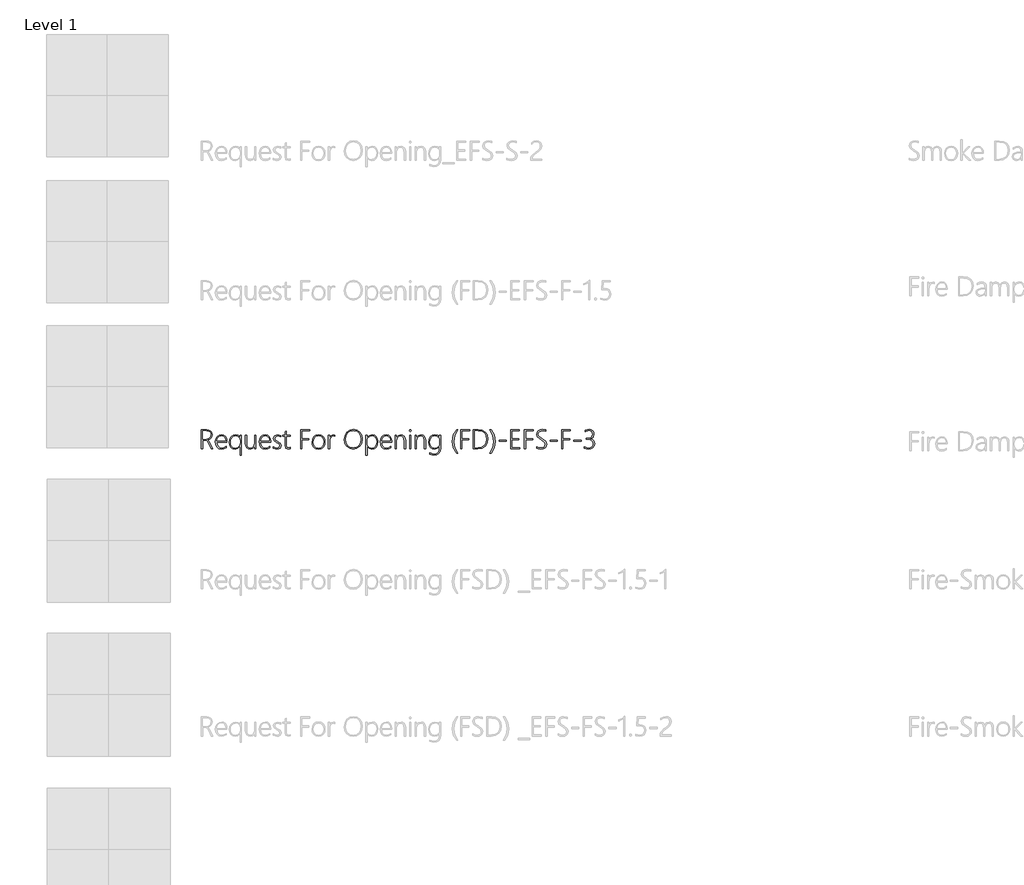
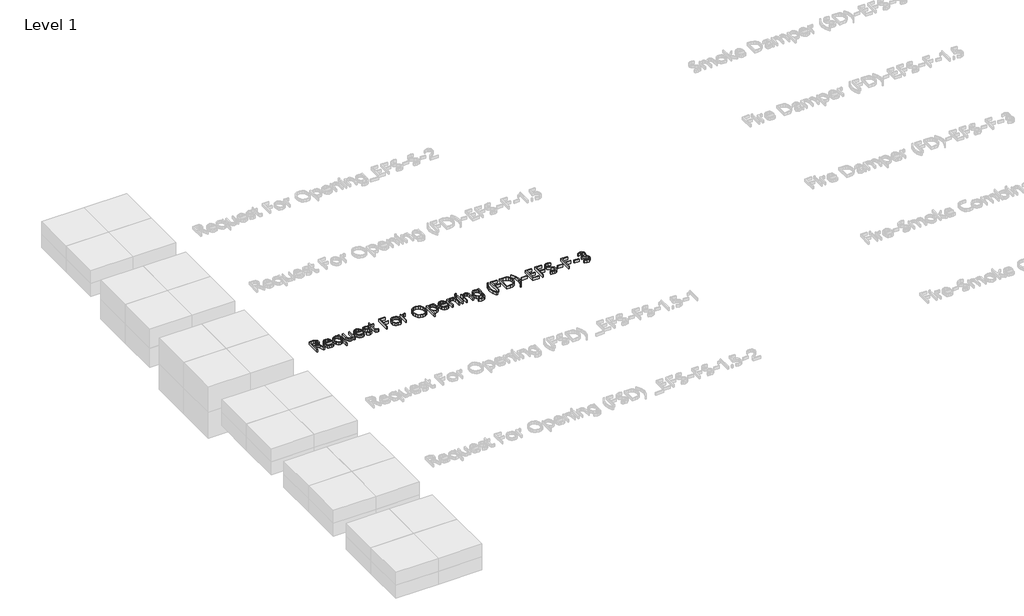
# One storey, part 5 of 13: 1 proxy.
"""IFC4 building model written with IfcOpenShell, lengths in millimetres."""

from ifc_helpers import new_model, si_unit, origin, origin_with_axes, place, context, project, spatial, polyline, outline, extrude, element, save

model = new_model("IFC4")

# Units and contexts
model_context = context("Model", 3, world=origin())
ifc_project = project(units=[si_unit("LENGTHUNIT", "METRE", prefix="MILLI")], contexts=[model_context])

# Site, building, storey
site = spatial("IfcSite", under=ifc_project)
building = spatial("IfcBuilding", under=site)
storey = spatial("IfcBuildingStorey", under=building, Name="Level 1", Elevation=0.0)

# Proxy
placement = place(None, origin())
element("IfcBuildingElementProxy", 1, Name="24\" Arial", ObjectType="24\" Arial", at=placement, inside=storey, context=model_context, shape_type="SweptSolid", body=[
    extrude(outline(polyline([(-15088.6743908, 6956.711941), (-15102.0044774, 6985.990524), (-15110.2316402, 6998.1750563), (-15120.5713837, 7001.284418), (-15132.9790759, 7001.284418), (-15132.9790759, 6956.711941), (-15139.8821565, 6956.711941), (-15139.8821565, 7056.717345), (-15112.121061, 7056.717345), (-15100.2973039, 7054.9283462), (-15091.307678, 7049.5613499), (-15085.6282578, 7041.2709584), (-15083.7351177, 7030.7117743), (-15085.2860792, 7020.777438), (-15089.9389638, 7012.6358199), (-15097.3813475, 7006.681169), (-15107.3008065, 7003.3077347), (-15095.7262447, 6988.5791792), (-15080.8786706, 6956.711941), (-15088.6743908, 6956.711941)]), holes=[polyline([(-15132.9790759, 7050.379603), (-15132.9790759, 7007.5626507), (-15115.7511292, 7007.5626507), (-15105.4783337, 7009.0615416), (-15097.5710334, 7013.5582142), (-15092.527619, 7020.6658581), (-15090.8464808, 7029.9976625), (-15092.3639684, 7038.5149333), (-15096.916431, 7044.9642553), (-15104.2955861, 7049.025766), (-15114.293151, 7050.379603), (-15132.9790759, 7050.379603)])]), origin_with_axes(), (0.0, 0.0, 1.0), 20.0),
    extrude(outline(polyline([(-15059.7528637, 6992.1497381), (-15058.0531289, 6979.0279342), (-15052.9539245, 6969.1196332), (-15044.8941316, 6962.8934711), (-15034.3126315, 6960.8180837), (-15022.4405231, 6963.0348057), (-15010.8659614, 6969.6849717), (-15010.8659614, 6962.8414005), (-15022.6041738, 6956.9276623), (-15035.6218364, 6954.9564162), (-15048.1039153, 6957.4334914), (-15057.9378296, 6964.8647172), (-15064.3202036, 6976.8112122), (-15066.4476617, 6992.8340953), (-15064.223501, 7007.2279108), (-15057.551019, 7019.1669672), (-15047.3228555, 7027.2007247), (-15034.4316501, 7029.8786439), (-15022.6748411, 7027.539184), (-15014.0050777, 7020.5208041), (-15008.6603974, 7009.4632295), (-15006.8788373, 6995.0061853), (-15006.8788373, 6992.1497381), (-15059.7528637, 6992.1497381)]), holes=[polyline([(-15013.5736352, 6998.0114057), (-15015.284528, 7008.9611197), (-15019.5245667, 7017.1734051), (-15026.07803, 7022.3060836), (-15034.7291967, 7024.0169764), (-15043.8973506, 7022.3321189), (-15051.347173, 7017.2775464), (-15056.676976, 7009.0912963), (-15059.4850718, 6998.0114057), (-15013.5736352, 6998.0114057)])]), origin_with_axes(), (0.0, 0.0, 1.0), 20.0),
    extrude(outline(polyline([(-14938.2348423, 6923.8627991), (-14938.2348423, 6969.833745), (-14948.946519, 6958.6757484), (-14964.3891863, 6954.9564162), (-14976.4695772, 6957.4148948), (-14985.9315583, 6964.7903305), (-14992.0461405, 6976.338857), (-14994.0843345, 6991.3166077), (-14991.7671906, 7007.2390688), (-14984.8157587, 7019.4793911), (-14974.2863292, 7027.2788307), (-14961.2351926, 7029.8786439), (-14947.5629274, 7026.5461223), (-14938.5026342, 7016.5485573), (-14938.2348423, 7028.1231191), (-14931.8078363, 7028.1231191), (-14931.8078363, 6923.8627991), (-14938.2348423, 6923.8627991)]), holes=[polyline([(-14938.2348423, 6999.5288932), (-14939.7858038, 7009.2661049), (-14944.4386884, 7017.1138958), (-14951.8438788, 7022.2912062), (-14961.6517578, 7024.0169764), (-14971.8055347, 7021.8820797), (-14980.0698908, 7015.4773897), (-14985.5596251, 7005.2343488), (-14987.3895366, 6991.5843996), (-14985.7604691, 6978.7564229), (-14980.8732666, 6969.0154919), (-14973.3899702, 6962.8674358), (-14963.9726211, 6960.8180837), (-14952.9448011, 6962.7372592), (-14944.8552536, 6968.4947854), (-14939.8899451, 6977.0269334), (-14938.2348423, 6987.2699743), (-14938.2348423, 6999.5288932)])]), origin_with_axes(), (0.0, 0.0, 1.0), 20.0),
    extrude(outline(polyline([(-14861.7951271, 6956.711941), (-14861.7951271, 6969.6849717), (-14871.5620934, 6958.6385551), (-14885.0930239, 6954.9564162), (-14896.1710549, 6956.9499783), (-14904.0839341, 6962.9306644), (-14908.8316616, 6972.8984747), (-14910.4142375, 6986.8534091), (-14910.4142375, 7028.1231191), (-14903.9277221, 7028.1231191), (-14903.9277221, 6988.4304059), (-14902.7338165, 6975.9222918), (-14899.1520996, 6967.3789857), (-14893.0040435, 6962.4583092), (-14884.1111202, 6960.8180837), (-14875.0917397, 6962.6479952), (-14867.9692185, 6968.1377295), (-14863.3386499, 6976.6847549), (-14861.7951271, 6987.6865395), (-14861.7951271, 7028.1231191), (-14855.3978757, 7028.1231191), (-14855.3978757, 6956.711941), (-14861.7951271, 6956.711941)])), origin_with_axes(), (0.0, 0.0, 1.0), 20.0),
    extrude(outline(polyline([(-14831.2370938, 6992.1497381), (-14829.537359, 6979.0279342), (-14824.4381545, 6969.1196332), (-14816.3783617, 6962.8934711), (-14805.7968616, 6960.8180837), (-14793.9247532, 6963.0348057), (-14782.3501914, 6969.6849717), (-14782.3501914, 6962.8414005), (-14794.0884038, 6956.9276623), (-14807.1060665, 6954.9564162), (-14819.5881453, 6957.4334914), (-14829.4220597, 6964.8647172), (-14835.8044337, 6976.8112122), (-14837.9318917, 6992.8340953), (-14835.7077311, 7007.2279108), (-14829.0352491, 7019.1669672), (-14818.8070856, 7027.2007247), (-14805.9158802, 7029.8786439), (-14794.1590711, 7027.539184), (-14785.4893078, 7020.5208041), (-14780.1446274, 7009.4632295), (-14778.3630673, 6995.0061853), (-14778.3630673, 6992.1497381), (-14831.2370938, 6992.1497381)]), holes=[polyline([(-14785.0578653, 6998.0114057), (-14786.7687581, 7008.9611197), (-14791.0087968, 7017.1734051), (-14797.5622601, 7022.3060836), (-14806.2134268, 7024.0169764), (-14815.3815806, 7022.3321189), (-14822.831403, 7017.2775464), (-14828.161206, 7009.0912963), (-14830.9693018, 6998.0114057), (-14785.0578653, 6998.0114057)])]), origin_with_axes(), (0.0, 0.0, 1.0), 20.0),
    extrude(outline(polyline([(-14764.1105863, 6959.83618), (-14764.1105863, 6967.6021457), (-14755.318085, 6962.6331179), (-14746.4065651, 6960.8180837), (-14733.798029, 6964.2547467), (-14729.5951836, 6974.5647355), (-14733.2847611, 6982.6431251), (-14745.2758881, 6989.5610829), (-14759.6771424, 6998.7999041), (-14763.8130398, 7010.4190979), (-14762.1504983, 7018.3003628), (-14757.1628738, 7024.5079282), (-14740.7531802, 7029.8786439), (-14724.9832117, 7026.0998024), (-14724.9832117, 7018.839666), (-14741.4375373, 7024.0169764), (-14752.8038165, 7020.3571535), (-14757.1182418, 7010.8356631), (-14754.410568, 7002.5638683), (-14742.419441, 6995.2739772), (-14727.080915, 6985.9607694), (-14722.9003856, 6974.5647355), (-14724.4959792, 6966.7950506), (-14729.2827597, 6960.5056598), (-14736.8739167, 6956.3437271), (-14746.8826396, 6954.9564162), (-14764.1105863, 6959.83618)])), origin_with_axes(), (0.0, 0.0, 1.0), 20.0),
    extrude(outline(polyline([(-14676.9294397, 6957.6938447), (-14686.3616662, 6955.3134721), (-14698.2337745, 6960.05934), (-14702.191144, 6974.2969436), (-14702.191144, 7022.2614516), (-14715.0154014, 7022.2614516), (-14715.0154014, 7028.1231191), (-14702.191144, 7028.1231191), (-14702.191144, 7046.6602708), (-14698.977641, 7047.7909477), (-14695.764138, 7048.8323608), (-14695.764138, 7028.1231191), (-14676.9294397, 7028.1231191), (-14676.9294397, 7022.2614516), (-14695.764138, 7022.2614516), (-14695.764138, 6975.130074), (-14693.4283973, 6964.4183973), (-14685.5285358, 6961.1156303), (-14676.9294397, 6963.6745309), (-14676.9294397, 6957.6938447)])), origin_with_axes(), (0.0, 0.0, 1.0), 20.0),
    extrude(outline(polyline([(-14615.0099974, 7050.379603), (-14615.0099974, 7009.5859675), (-14578.0547127, 7009.5859675), (-14578.0547127, 7003.3077347), (-14615.0099974, 7003.3077347), (-14615.0099974, 6956.711941), (-14621.9130779, 6956.711941), (-14621.9130779, 7056.717345), (-14575.1685109, 7056.717345), (-14575.1685109, 7050.379603), (-14615.0099974, 7050.379603)])), origin_with_axes(), (0.0, 0.0, 1.0), 20.0),
    extrude(outline(polyline([(-14527.9776241, 6954.9564162), (-14541.9697518, 6957.5301941), (-14552.7037445, 6965.2515277), (-14559.5324384, 6977.0864428), (-14561.8086697, 6992.0009649), (-14559.4282971, 7007.856478), (-14552.2871793, 7019.836447), (-14541.2630787, 7027.3680947), (-14527.2337576, 7029.8786439), (-14513.5503345, 7027.382972), (-14503.087853, 7019.8959563), (-14496.4488451, 7007.9978126), (-14494.2358424, 6992.2687568), (-14496.4934771, 6977.1905841), (-14503.266381, 6965.2812824), (-14513.959461, 6957.5376327), (-14527.9776241, 6954.9564162)]), holes=[polyline([(-14527.5015495, 7024.0169764), (-14538.8380741, 7021.8895184), (-14547.615698, 7015.5071443), (-14553.2393283, 7005.3384901), (-14555.1138717, 6991.8521916), (-14553.2839603, 6979.2139008), (-14547.794226, 6969.3279158), (-14539.128182, 6962.9455418), (-14527.7693415, 6960.8180837), (-14516.3621496, 6962.9120678), (-14507.9081076, 6969.1940198), (-14502.6750072, 6979.1878654), (-14500.9306404, 6992.4175301), (-14502.6638492, 7005.9075479), (-14507.8634756, 7015.8493229), (-14516.2394117, 7021.975063), (-14527.5015495, 7024.0169764)])]), origin_with_axes(), (0.0, 0.0, 1.0), 20.0),
    extrude(outline(polyline([(-14442.9983221, 7021.4283212), (-14450.5262505, 7023.7194298), (-14458.2736194, 7021.5399011), (-14464.6745901, 7015.0013151), (-14468.9704188, 7004.453289), (-14470.4023617, 6990.2454401), (-14470.4023617, 6956.711941), (-14476.6805945, 6956.711941), (-14476.6805945, 7028.1231191), (-14470.4023617, 7028.1231191), (-14470.4023617, 7012.2936413), (-14462.3686042, 7024.9840027), (-14450.1096853, 7029.521588), (-14442.9983221, 7028.2718924), (-14442.9983221, 7021.4283212)])), origin_with_axes(), (0.0, 0.0, 1.0), 20.0),
    extrude(outline(polyline([(-14346.5337224, 6954.9564162), (-14365.5729839, 6958.4786238), (-14380.320136, 6969.0452466), (-14389.7709591, 6985.2429383), (-14392.9212335, 7005.6583527), (-14389.6854145, 7027.2007247), (-14379.9779574, 7043.9823516), (-14364.6766248, 7054.7832923), (-14344.6591789, 7058.3836058), (-14326.3563452, 7054.9246269), (-14311.9141783, 7044.5476901), (-14302.5303032, 7028.5545616), (-14299.4023448, 7008.2470079), (-14302.6084092, 6986.0760687), (-14312.2266022, 6969.1940198), (-14327.2155109, 6958.5158171), (-14346.5337224, 6954.9564162)]), holes=[polyline([(-14345.8196106, 7052.1053731), (-14361.712317, 7048.9513794), (-14374.5179778, 7039.4893983), (-14382.9645812, 7024.9170548), (-14385.7801157, 7006.4319738), (-14383.1133545, 6987.8873834), (-14375.1130709, 6973.5530772), (-14362.6719047, 6964.381204), (-14346.6824956, 6961.3239129), (-14330.0570807, 6964.34773), (-14317.3146486, 6973.4191812), (-14309.2139431, 6987.8985414), (-14306.513708, 7007.1460855), (-14309.1544338, 7026.0068191), (-14317.0766114, 7040.2183874), (-14329.5438129, 7049.1336267), (-14345.8196106, 7052.1053731)])]), origin_with_axes(), (0.0, 0.0, 1.0), 20.0),
    extrude(outline(polyline([(-14273.843094, 6969.4171798), (-14274.1108859, 6923.8627991), (-14280.5378919, 6923.8627991), (-14280.5378919, 7028.1231191), (-14274.1108859, 7028.1231191), (-14274.1108859, 7013.3945636), (-14262.848748, 7025.5790959), (-14247.1234115, 7029.8786439), (-14235.0169852, 7027.5317453), (-14225.8934633, 7020.4910495), (-14220.1694111, 7009.4260362), (-14218.2613937, 6995.0061853), (-14220.448361, 6978.7861776), (-14227.009263, 6966.0102715), (-14237.1630399, 6957.71988), (-14250.1286319, 6954.9564162), (-14264.0761276, 6958.5716071), (-14273.843094, 6969.4171798)]), holes=[polyline([(-14274.1108859, 6995.988089), (-14274.1108859, 6986.9724277), (-14272.4185897, 6976.9897401), (-14267.3417013, 6968.52454), (-14259.512507, 6962.7446978), (-14249.5632934, 6960.8180837), (-14239.6438345, 6963.1649824), (-14231.7848855, 6970.2056782), (-14226.6633651, 6981.0624089), (-14224.9561916, 6994.857412), (-14226.5257498, 7006.870855), (-14231.2344244, 7016.1319921), (-14238.5540701, 7022.0457303), (-14247.9565419, 7024.0169764), (-14259.0364325, 7021.9229923), (-14267.282192, 7015.6410403), (-14272.4037124, 7006.5398344), (-14274.1108859, 6995.988089)])]), origin_with_axes(), (0.0, 0.0, 1.0), 20.0),
    extrude(outline(polyline([(-14199.0101303, 6992.1497381), (-14197.3103954, 6979.0279342), (-14192.211191, 6969.1196332), (-14184.1513981, 6962.8934711), (-14173.5698981, 6960.8180837), (-14161.6977897, 6963.0348057), (-14150.1232279, 6969.6849717), (-14150.1232279, 6962.8414005), (-14161.8614403, 6956.9276623), (-14174.879103, 6954.9564162), (-14187.3611818, 6957.4334914), (-14197.1950961, 6964.8647172), (-14203.5774702, 6976.8112122), (-14205.7049282, 6992.8340953), (-14203.4807675, 7007.2279108), (-14196.8082856, 7019.1669672), (-14186.5801221, 7027.2007247), (-14173.6889167, 7029.8786439), (-14161.9321076, 7027.539184), (-14153.2623443, 7020.5208041), (-14147.9176639, 7009.4632295), (-14146.1361038, 6995.0061853), (-14146.1361038, 6992.1497381), (-14199.0101303, 6992.1497381)]), holes=[polyline([(-14152.8309017, 6998.0114057), (-14154.5417946, 7008.9611197), (-14158.7818333, 7017.1734051), (-14165.3352966, 7022.3060836), (-14173.9864633, 7024.0169764), (-14183.1546171, 7022.3321189), (-14190.6044395, 7017.2775464), (-14195.9342425, 7009.0912963), (-14198.7423383, 6998.0114057), (-14152.8309017, 6998.0114057)])]), origin_with_axes(), (0.0, 0.0, 1.0), 20.0),
    extrude(outline(polyline([(-14079.6344442, 6956.711941), (-14079.6344442, 6998.2791976), (-14084.2761708, 7017.5825317), (-14090.078329, 7022.4083652), (-14098.2013505, 7024.0169764), (-14107.6001029, 7022.1238363), (-14115.146628, 7016.444416), (-14120.1119364, 7007.9754966), (-14121.7670393, 6997.7138591), (-14121.7670393, 6956.711941), (-14128.1940453, 6956.711941), (-14128.1940453, 7028.1231191), (-14121.7670393, 7028.1231191), (-14121.7670393, 7015.1500884), (-14111.4793664, 7026.196505), (-14097.0706735, 7029.8786439), (-14086.8573873, 7027.9520298), (-14079.3666523, 7022.1721876), (-14074.7695577, 7012.8143478), (-14073.2371928, 7000.153741), (-14073.2371928, 6956.711941), (-14079.6344442, 6956.711941)])), origin_with_axes(), (0.0, 0.0, 1.0), 20.0),
    extrude(outline(polyline([(-14048.8681283, 7046.1246869), (-14052.5577058, 7047.6570518), (-14054.1644573, 7051.5697893), (-14052.5279512, 7055.2891214), (-14048.8681283, 7056.717345), (-14045.0595321, 7055.3188761), (-14043.4230259, 7051.5697893), (-14045.0297775, 7047.7314384), (-14048.8681283, 7046.1246869)])), origin_with_axes(), (0.0, 0.0, 1.0), 20.0),
    extrude(outline(polyline([(-14052.022122, 6956.711941), (-14052.022122, 7028.1231191), (-14045.595116, 7028.1231191), (-14045.595116, 6956.711941), (-14052.022122, 6956.711941)])), origin_with_axes(), (0.0, 0.0, 1.0), 20.0),
    extrude(outline(polyline([(-13974.8980496, 6956.711941), (-13974.8980496, 6998.2791976), (-13979.5397762, 7017.5825317), (-13985.3419344, 7022.4083652), (-13993.4649559, 7024.0169764), (-14002.8637084, 7022.1238363), (-14010.4102334, 7016.444416), (-14015.3755419, 7007.9754966), (-14017.0306447, 6997.7138591), (-14017.0306447, 6956.711941), (-14023.4576507, 6956.711941), (-14023.4576507, 7028.1231191), (-14017.0306447, 7028.1231191), (-14017.0306447, 7015.1500884), (-14006.7429719, 7026.196505), (-13992.3342789, 7029.8786439), (-13982.1209927, 7027.9520298), (-13974.6302577, 7022.1721876), (-13970.0331631, 7012.8143478), (-13968.5007983, 7000.153741), (-13968.5007983, 6956.711941), (-13974.8980496, 6956.711941)])), origin_with_axes(), (0.0, 0.0, 1.0), 20.0),
    extrude(outline(polyline([(-13890.1567849, 6962.00827), (-13892.3549103, 6944.5646021), (-13898.9492862, 6932.5214044), (-13910.1779501, 6925.5141826), (-13926.2789392, 6923.1784419), (-13947.5535193, 6928.5937896), (-13947.5535193, 6935.2885876), (-13926.1301659, 6929.0401095), (-13913.2036269, 6930.9927589), (-13903.9703847, 6936.8507071), (-13898.4304394, 6946.6139541), (-13896.583791, 6960.2824999), (-13896.583791, 6969.5361984), (-13907.5111889, 6958.6013618), (-13922.5893617, 6954.9564162), (-13934.5581727, 6957.3479468), (-13944.1019791, 6964.5225386), (-13950.3504571, 6975.9669238), (-13952.4332832, 6991.1678344), (-13950.1830872, 7006.681169), (-13943.4324993, 7019.0628259), (-13933.0072111, 7027.1746894), (-13919.7329145, 7029.8786439), (-13906.1275974, 7026.6130702), (-13896.8515829, 7016.8163492), (-13896.583791, 7028.1231191), (-13890.1567849, 7028.1231191), (-13890.1567849, 6962.00827)]), holes=[polyline([(-13896.583791, 7000.7190795), (-13898.1793845, 7009.5636515), (-13902.966165, 7017.1138958), (-13910.3118461, 7022.2912062), (-13919.5841412, 7024.0169764), (-13930.217712, 7021.8002544), (-13938.5527354, 7015.1500884), (-13943.9420478, 7004.8624156), (-13945.7384852, 6991.7331729), (-13944.0908211, 6978.7006329), (-13939.1478286, 6968.9411053), (-13931.5046009, 6962.8488391), (-13921.7562312, 6960.8180837), (-13911.4127684, 6962.6851885), (-13903.4124849, 6968.2865028), (-13898.2909644, 6976.5880522), (-13896.583791, 6986.5558625), (-13896.583791, 7000.7190795)])]), origin_with_axes(), (0.0, 0.0, 1.0), 20.0),
    extrude(outline(polyline([(-13807.1412904, 6933.9793826), (-13822.9856455, 6961.5098795), (-13828.2670972, 6994.7086387), (-13822.9186975, 7029.0455135), (-13806.8734985, 7056.717345), (-13800.0299272, 7056.717345), (-13816.4098662, 7028.6958963), (-13821.8698459, 6994.857412), (-13816.4842529, 6962.3058166), (-13800.3274738, 6933.9793826), (-13807.1412904, 6933.9793826)])), origin_with_axes(), (0.0, 0.0, 1.0), 20.0),
    extrude(outline(polyline([(-13779.023139, 7050.379603), (-13779.023139, 7009.5859675), (-13742.0678543, 7009.5859675), (-13742.0678543, 7003.3077347), (-13779.023139, 7003.3077347), (-13779.023139, 6956.711941), (-13785.9262196, 6956.711941), (-13785.9262196, 7056.717345), (-13739.1816526, 7056.717345), (-13739.1816526, 7050.379603), (-13779.023139, 7050.379603)])), origin_with_axes(), (0.0, 0.0, 1.0), 20.0),
    extrude(outline(polyline([(-13719.2757867, 6956.711941), (-13719.2757867, 7056.717345), (-13694.222365, 7056.717345), (-13672.3229371, 7053.615422), (-13656.3744406, 7044.3096528), (-13646.6446676, 7029.0529522), (-13643.4014099, 7008.0982346), (-13646.8789855, 6987.3927123), (-13657.3117123, 6970.9792993), (-13673.8664599, 6960.2787806), (-13695.7100979, 6956.711941), (-13719.2757867, 6956.711941)]), holes=[polyline([(-13712.3727061, 7050.379603), (-13712.3727061, 6962.9901737), (-13696.6622469, 6962.9901737), (-13677.0092956, 6965.8763755), (-13662.5039001, 6974.5349809), (-13653.5551868, 6988.6312499), (-13650.5722824, 7007.8304427), (-13653.3655009, 7026.4457003), (-13661.7451563, 7039.7423129), (-13675.7112487, 7047.7202804), (-13695.263778, 7050.379603), (-13712.3727061, 7050.379603)])]), origin_with_axes(), (0.0, 0.0, 1.0), 20.0),
    extrude(outline(polyline([(-13626.2627272, 6933.9793826), (-13633.1062984, 6933.9793826), (-13616.9272034, 6962.3058166), (-13611.5341717, 6994.857412), (-13616.9941513, 7028.6958963), (-13633.3740903, 7056.717345), (-13626.5305191, 7056.717345), (-13610.48532, 7028.9711269), (-13605.1369203, 6994.7086387), (-13610.418372, 6961.4354929), (-13626.2627272, 6933.9793826)])), origin_with_axes(), (0.0, 0.0, 1.0), 20.0),
    extrude(outline(polyline([(-13584.8739985, 6995.4227505), (-13584.8739985, 7001.7009832), (-13546.7285276, 7001.7009832), (-13546.7285276, 6995.4227505), (-13584.8739985, 6995.4227505)])), origin_with_axes(), (0.0, 0.0, 1.0), 20.0),
    extrude(outline(polyline([(-13525.0373822, 6956.711941), (-13525.0373822, 7056.717345), (-13478.2928152, 7056.717345), (-13478.2928152, 7050.379603), (-13518.1343017, 7050.379603), (-13518.1343017, 7010.2703246), (-13481.179017, 7010.2703246), (-13481.179017, 7003.9920918), (-13518.1343017, 7003.9920918), (-13518.1343017, 6962.9901737), (-13476.0017066, 6962.9901737), (-13476.0017066, 6956.711941), (-13525.0373822, 6956.711941)])), origin_with_axes(), (0.0, 0.0, 1.0), 20.0),
    extrude(outline(polyline([(-13445.7709745, 7050.379603), (-13445.7709745, 7009.5859675), (-13408.8156898, 7009.5859675), (-13408.8156898, 7003.3077347), (-13445.7709745, 7003.3077347), (-13445.7709745, 6956.711941), (-13452.6740551, 6956.711941), (-13452.6740551, 7056.717345), (-13405.9294881, 7056.717345), (-13405.9294881, 7050.379603), (-13445.7709745, 7050.379603)])), origin_with_axes(), (0.0, 0.0, 1.0), 20.0),
    extrude(outline(polyline([(-13389.1478612, 6960.2824999), (-13389.1478612, 6968.1377295), (-13378.3394818, 6963.0273671), (-13367.3972065, 6961.3239129), (-13349.6039213, 6966.1590448), (-13345.0514587, 6971.9649223), (-13343.5339712, 6979.7122913), (-13347.6252366, 6991.9563329), (-13365.3143805, 7004.408657), (-13384.5507666, 7019.2413538), (-13388.5825227, 7033.0028829), (-13386.525732, 7042.7958846), (-13380.3553599, 7050.9895734), (-13370.7557635, 7056.5350977), (-13358.4113, 7058.3836058), (-13340.5585054, 7055.3783854), (-13340.5585054, 7048.1480036), (-13359.3039397, 7052.1053731), (-13375.4458414, 7046.94294), (-13379.920198, 7041.0849918), (-13381.4116502, 7033.8360134), (-13377.3352622, 7021.6366038), (-13359.7205049, 7009.2884209), (-13341.0643346, 6995.1698359), (-13336.422608, 6980.9917416), (-13338.4198894, 6970.5404181), (-13344.4117336, 6962.2165526), (-13354.0485233, 6956.7714503), (-13366.9806413, 6954.9564162), (-13378.867627, 6956.5631677), (-13389.1478612, 6960.2824999)])), origin_with_axes(), (0.0, 0.0, 1.0), 20.0),
    extrude(outline(polyline([(-13318.2722669, 6995.4227505), (-13318.2722669, 7001.7009832), (-13280.126796, 7001.7009832), (-13280.126796, 6995.4227505), (-13318.2722669, 6995.4227505)])), origin_with_axes(), (0.0, 0.0, 1.0), 20.0),
    extrude(outline(polyline([(-13251.5325701, 7050.379603), (-13251.5325701, 7009.5859675), (-13214.5772854, 7009.5859675), (-13214.5772854, 7003.3077347), (-13251.5325701, 7003.3077347), (-13251.5325701, 6956.711941), (-13258.4356506, 6956.711941), (-13258.4356506, 7056.717345), (-13211.6910836, 7056.717345), (-13211.6910836, 7050.379603), (-13251.5325701, 7050.379603)])), origin_with_axes(), (0.0, 0.0, 1.0), 20.0),
    extrude(outline(polyline([(-13194.4928915, 6995.4227505), (-13194.4928915, 7001.7009832), (-13156.3474206, 7001.7009832), (-13156.3474206, 6995.4227505), (-13194.4928915, 6995.4227505)])), origin_with_axes(), (0.0, 0.0, 1.0), 20.0),
    extrude(outline(polyline([(-13139.4467751, 6960.2824999), (-13139.4467751, 6967.6021457), (-13117.904403, 6960.8180837), (-13107.155533, 6962.3616066), (-13099.0101955, 6966.9921752), (-13093.877517, 6974.1146963), (-13092.1666242, 6983.1340769), (-13094.1304316, 6992.8861659), (-13100.0218538, 6999.9454584), (-13109.5359056, 7004.2301291), (-13122.3676016, 7005.6583527), (-13130.0443033, 7005.6583527), (-13130.0443033, 7011.5200202), (-13123.2007321, 7011.5200202), (-13111.4067297, 7012.9408051), (-13102.8039143, 7017.2031598), (-13097.5484979, 7024.0616084), (-13095.7966925, 7033.2706749), (-13100.8847389, 7047.4041372), (-13107.1480943, 7051.242488), (-13115.7620677, 7052.5219383), (-13135.4894056, 7045.9759136), (-13135.4894056, 7052.8194849), (-13114.780164, 7058.3836058), (-13104.1428739, 7056.7805737), (-13095.9752204, 7051.9714771), (-13090.775594, 7044.5142161), (-13089.0423852, 7034.9666903), (-13093.9072717, 7018.3710301), (-13108.5019312, 7009.1694023), (-13099.0771435, 7006.4096578), (-13091.750059, 7001.1058901), (-13087.0413845, 6993.4961364), (-13085.4718263, 6984.1159806), (-13087.7406189, 6972.2699076), (-13094.5469968, 6962.9752964), (-13104.961127, 6956.9611363), (-13118.0531763, 6954.9564162), (-13139.4467751, 6960.2824999)])), origin_with_axes(), (0.0, 0.0, 1.0), 20.0),
])

save(model, "model.ifc")
